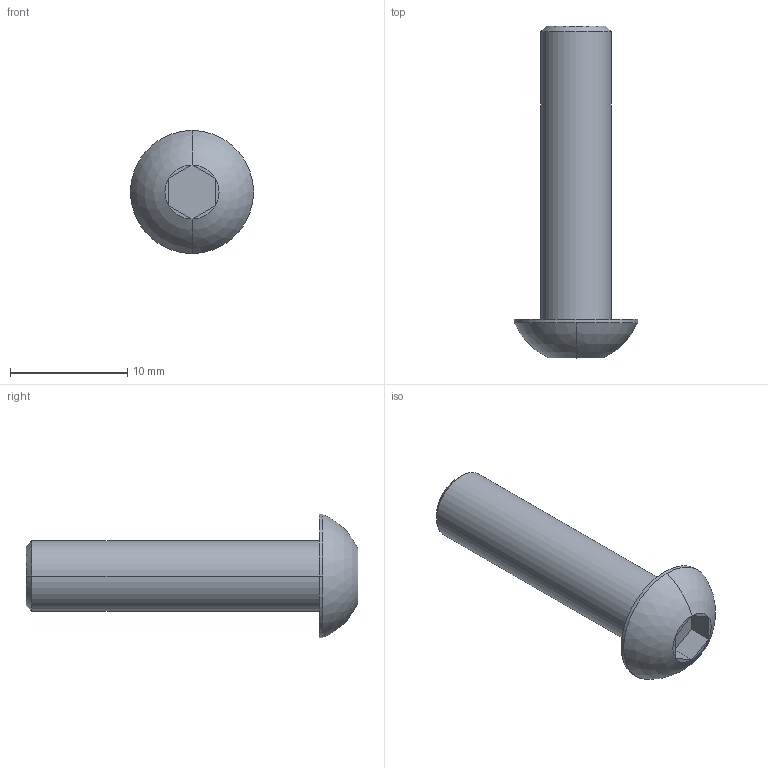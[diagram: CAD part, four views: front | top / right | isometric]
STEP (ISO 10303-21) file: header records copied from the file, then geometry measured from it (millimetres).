
FILE_DESCRIPTION((''),'2;1');
FILE_NAME('VTBEI0625','2002-12-27T',('Lipro doo'),('Lipro d.o.o.'),'PRO/ENGINEER BY PARAMETRIC TECHNOLOGY CORPORATION, 2001150','PRO/ENGINEER BY PARAMETRIC TECHNOLOGY CORPORATION, 2001150','');
FILE_SCHEMA(('CONFIG_CONTROL_DESIGN'));
Length unit declared in the file: millimetre
Products named in the file (1): VTBEI0625
Bounding box: 10.5 x 28.3 x 10.5 mm (x, y, z)
Volume: 870.9 mm3; surface area: 1107.5 mm2
Topology: 1 solids, 2 shells, 25 faces, 50 edges, 28 vertices
Faces by surface type: plane 15, cylinder 6, cone 2, sphere 2
Entity records: 684 total; most frequent: DIRECTION 126, CARTESIAN_POINT 104, ORIENTED_EDGE 96, AXIS2_PLACEMENT_3D 50, EDGE_CURVE 50, VERTEX_POINT 28, VECTOR 26, LINE 26
